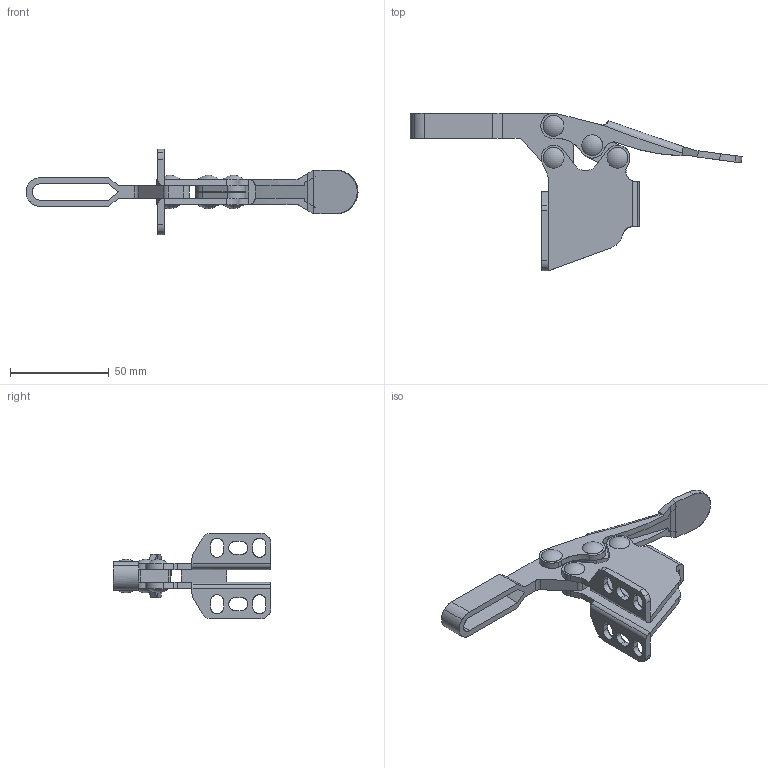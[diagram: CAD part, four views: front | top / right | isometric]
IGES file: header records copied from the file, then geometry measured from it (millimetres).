
Start section: Comment
Global section: file name: 225dsm.igs; native system:  By Spatial Corp.; preprocessor: XPlus PS/IGES 3.0; author: Author; organization: Title; date: 20050217.081907; units: inch
Bounding box: 168.4 x 79.99 x 43.4 mm (x, y, z)
Surface area: 28154.3 mm2 (no closed solid volume)
Topology: 0 solids, 0 shells, 231 faces, 1254 edges, 1254 vertices
Faces by surface type: revolution 131, extrusion 100
